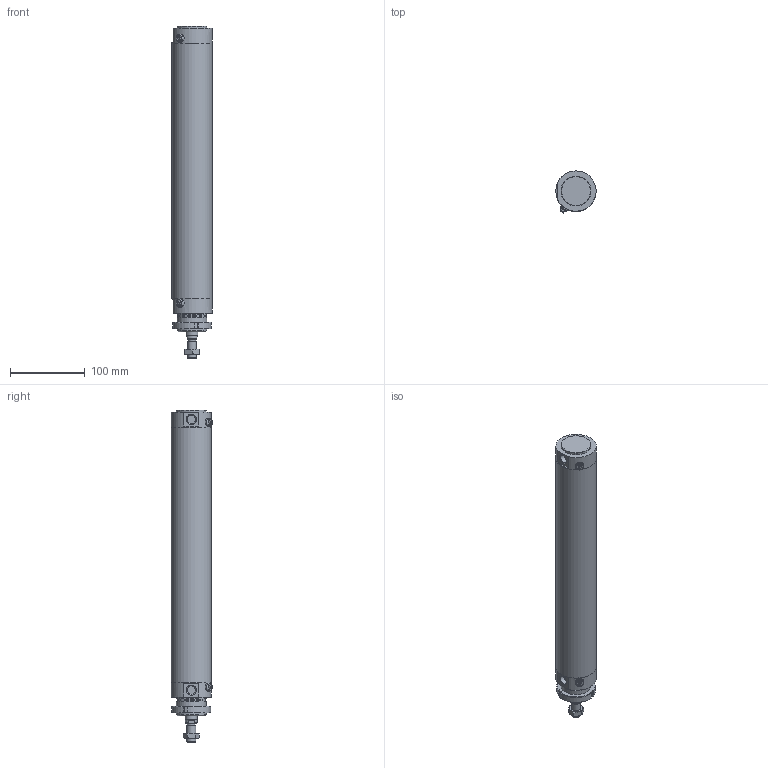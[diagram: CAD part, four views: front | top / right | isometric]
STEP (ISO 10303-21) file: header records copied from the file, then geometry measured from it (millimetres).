
FILE_DESCRIPTION(/* description */ (''),/* implementation_level */ '2;1');
FILE_NAME(/* name */ 'I:\Area Tecnica\Documenti\A-Manieri\_Inventor\12X\12X#D_###_####_#_#\12XBD_050_0300_#_#.stp',/* time_stamp */ '2015-05-04T15:13:01+02:00',/* author */ ('maniean1'),/* organization */ ('Pneumax S.p.A.'),/* preprocessor_version */ 'ST-DEVELOPER v15.2',/* originating_system */ 'Autodesk Inventor 2014',/* authorisation */ '');
FILE_SCHEMA (('AUTOMOTIVE_DESIGN { 1 0 10303 214 3 1 1 }'));
Length unit declared in the file: millimetre
Products named in the file (7): C1250_619-0300; 12X50_606; S12X50_0300; 12X_50_11; 12X50_612; G12X_050_05; 12XBD_050_0300_#_#
Bounding box: 54 x 55.88 x 445 mm (x, y, z)
Volume: 394516.4 mm3; surface area: 168946 mm2
Topology: 6 solids, 6 shells, 99 faces, 217 edges, 140 vertices
Faces by surface type: plane 53, cylinder 25, cone 19, torus 2
Full cylindrical faces by diameter (mm): 5 x2, 10.2 x1, 11 x2, 11.4 x2, 12 x2, 14 x1, 15.6 x1, 16 x1, 38.2 x1, 40 x4, 50 x2, 54 x3
Entity records: 2667 total; most frequent: CARTESIAN_POINT 540, DIRECTION 444, ORIENTED_EDGE 348, AXIS2_PLACEMENT_3D 188, EDGE_CURVE 174, EDGE_LOOP 152, VERTEX_POINT 132, ADVANCED_FACE 99
